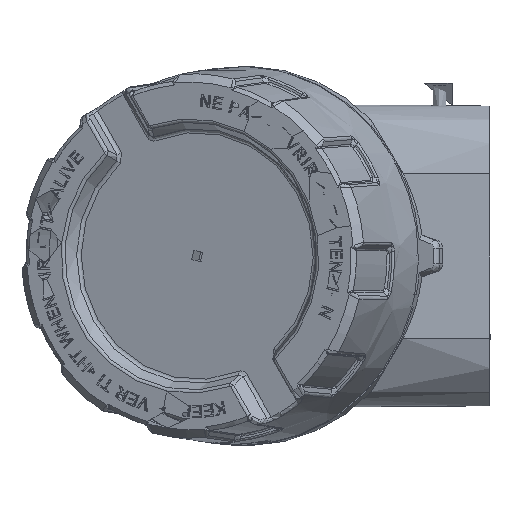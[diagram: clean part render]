
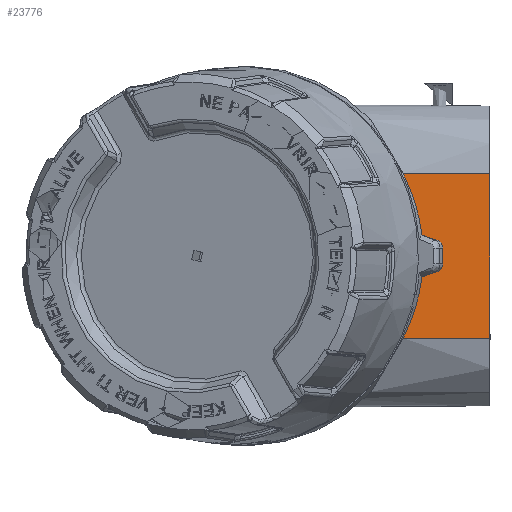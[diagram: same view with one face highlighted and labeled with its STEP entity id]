
A CAD part, front view. The second image highlights one B-rep face of the part: STEP entity #23776.
In plain terms, the highlighted planar face has unit normal (0, -1, 0).
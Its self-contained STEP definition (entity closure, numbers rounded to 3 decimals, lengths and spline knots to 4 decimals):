
#404=ELLIPSE($,#25220,1.8854,1.7717);
#405=ELLIPSE($,#25222,1.8854,1.7717);
#406=ELLIPSE($,#25247,0.0838,0.0787);
#407=ELLIPSE($,#25249,0.0838,0.0787);
#1837=LINE($,#91162,#3522);
#1857=LINE($,#92655,#3542);
#1863=LINE($,#92665,#3548);
#1865=LINE($,#92669,#3550);
#1866=LINE($,#92676,#3551);
#1867=LINE($,#92677,#3552);
#3522=VECTOR($,#29326,1.5354);
#3542=VECTOR($,#29494,0.1493);
#3548=VECTOR($,#29502,0.1489);
#3550=VECTOR($,#29506,0.1489);
#3551=VECTOR($,#29519,0.8115);
#3552=VECTOR($,#29520,0.8115);
#6188=PLANE($,#25251);
#7746=FACE_OUTER_BOUND($,#9290,.T.);
#9290=EDGE_LOOP($,(#21613,#21614,#21615,#21616,#21617,#21618,#21619,#21620,
#21621,#21622));
#12046=VERTEX_POINT($,#91159);
#12047=VERTEX_POINT($,#91161);
#12084=VERTEX_POINT($,#92553);
#12085=VERTEX_POINT($,#92555);
#12088=VERTEX_POINT($,#92570);
#12089=VERTEX_POINT($,#92581);
#12100=VERTEX_POINT($,#92653);
#12101=VERTEX_POINT($,#92654);
#12104=VERTEX_POINT($,#92663);
#12105=VERTEX_POINT($,#92667);
#15259=EDGE_CURVE($,#12046,#12047,#1837,.T.);
#15322=EDGE_CURVE($,#12085,#12084,#404,.F.);
#15326=EDGE_CURVE($,#12089,#12088,#405,.F.);
#15340=EDGE_CURVE($,#12100,#12101,#1857,.T.);
#15346=EDGE_CURVE($,#12104,#12084,#1863,.T.);
#15348=EDGE_CURVE($,#12089,#12105,#1865,.T.);
#15349=EDGE_CURVE($,#12100,#12105,#406,.F.);
#15350=EDGE_CURVE($,#12104,#12101,#407,.F.);
#15352=EDGE_CURVE($,#12088,#12047,#1866,.T.);
#15353=EDGE_CURVE($,#12085,#12046,#1867,.T.);
#21613=ORIENTED_EDGE($,*,*,#15346,.F.);
#21614=ORIENTED_EDGE($,*,*,#15350,.T.);
#21615=ORIENTED_EDGE($,*,*,#15340,.F.);
#21616=ORIENTED_EDGE($,*,*,#15349,.T.);
#21617=ORIENTED_EDGE($,*,*,#15348,.F.);
#21618=ORIENTED_EDGE($,*,*,#15326,.T.);
#21619=ORIENTED_EDGE($,*,*,#15352,.T.);
#21620=ORIENTED_EDGE($,*,*,#15259,.F.);
#21621=ORIENTED_EDGE($,*,*,#15353,.F.);
#21622=ORIENTED_EDGE($,*,*,#15322,.T.);
#23776=ADVANCED_FACE($,(#7746),#6188,.T.);
#25220=AXIS2_PLACEMENT_3D($,#92556,#29444,#29445);
#25222=AXIS2_PLACEMENT_3D($,#92582,#29448,#29449);
#25247=AXIS2_PLACEMENT_3D($,#92671,#29509,#29510);
#25249=AXIS2_PLACEMENT_3D($,#92673,#29513,#29514);
#25251=AXIS2_PLACEMENT_3D($,#92675,#29517,#29518);
#29326=DIRECTION($,(0.,0.,-1.));
#29444=DIRECTION('center_axis',(0.,-1.,0.));
#29445=DIRECTION('ref_axis',(-1.,0.,0.));
#29448=DIRECTION('center_axis',(0.,-1.,0.));
#29449=DIRECTION('ref_axis',(-1.,0.,0.));
#29494=DIRECTION($,(0.,0.,1.));
#29502=DIRECTION($,(-0.946,0.,0.324));
#29506=DIRECTION($,(0.946,0.,0.324));
#29509=DIRECTION('center_axis',(0.,-1.,0.));
#29510=DIRECTION('ref_axis',(-1.,0.,0.));
#29513=DIRECTION('center_axis',(0.,-1.,0.));
#29514=DIRECTION('ref_axis',(-1.,0.,0.));
#29517=DIRECTION('center_axis',(0.,-1.,0.));
#29518=DIRECTION('ref_axis',(-1.,0.,0.));
#29519=DIRECTION($,(1.,0.,0.));
#29520=DIRECTION($,(1.,0.,0.));
#91159=CARTESIAN_POINT('',(6.8743,1.2678,3.707));
#91161=CARTESIAN_POINT('',(6.8743,1.2678,2.1716));
#91162=CARTESIAN_POINT($,(6.8743,1.2678,3.707));
#92553=CARTESIAN_POINT('',(6.2373,1.2678,3.1361));
#92555=CARTESIAN_POINT('',(6.0628,1.2678,3.707));
#92556=CARTESIAN_POINT('Origin',(4.3637,1.2678,2.9393));
#92570=CARTESIAN_POINT('',(6.0628,1.2678,2.1716));
#92581=CARTESIAN_POINT('',(6.2373,1.2678,2.7424));
#92582=CARTESIAN_POINT('Origin',(4.3637,1.2678,2.9393));
#92653=CARTESIAN_POINT('',(6.4334,1.2678,2.8646));
#92654=CARTESIAN_POINT('',(6.4334,1.2678,3.0139));
#92655=CARTESIAN_POINT($,(6.4334,1.2678,3.707));
#92663=CARTESIAN_POINT('',(6.3782,1.2678,3.0879));
#92665=CARTESIAN_POINT($,(4.3946,1.2678,3.7664));
#92667=CARTESIAN_POINT('',(6.3782,1.2678,2.7906));
#92669=CARTESIAN_POINT($,(4.8648,1.2678,2.273));
#92671=CARTESIAN_POINT('Origin',(6.3496,1.2678,2.8646));
#92673=CARTESIAN_POINT('Origin',(6.3496,1.2678,3.0139));
#92675=CARTESIAN_POINT('Origin',(4.3743,1.2678,3.707));
#92676=CARTESIAN_POINT($,(4.3743,1.2678,2.1716));
#92677=CARTESIAN_POINT($,(4.3743,1.2678,3.707));
